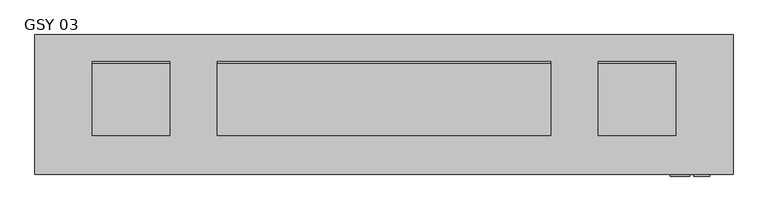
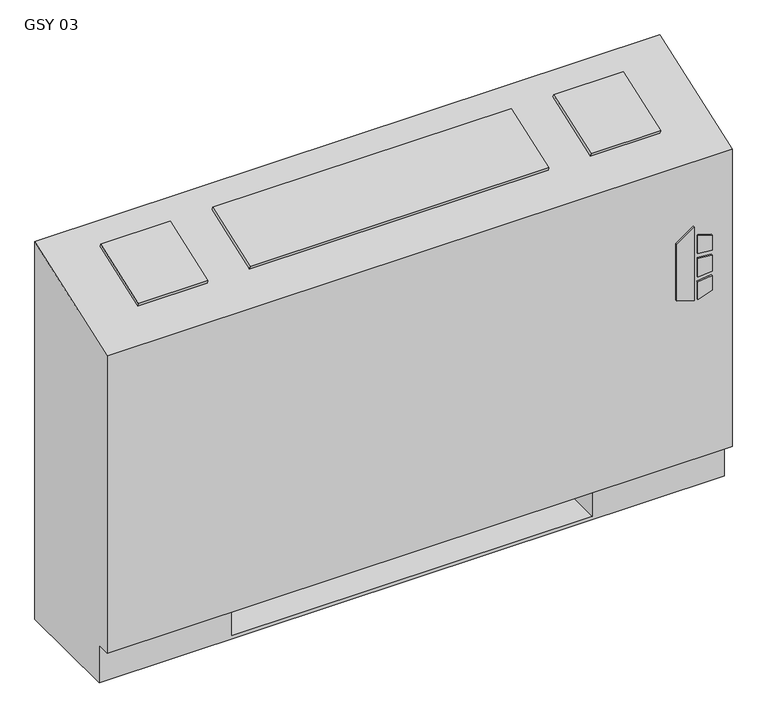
"""IFC4 building model written with IfcOpenShell, lengths in millimetres: proxy geometry, Vertical_Fan_Coil_Unit_-_GSY_-_IEC_-_2-Pipe_TS-FR_LH_2022 : GSY 03."""

from ifc_helpers import new_model, si_unit, point, frame, frame_2d, origin, place, context, project, spatial, polyline, circle_curve, trimmed, segment, composite_curve, outline, extrude, source, transform, mapped, element, save
from ifc_brep_helpers import plane_surface, revolved_surface, advanced_brep


def gsy_03_2a40df72(model_context):
    return source(origin(), model_context, "Body", "SolidModel", [
        extrude(outline(polyline([(391.6086829, 620.7868862), (381.6606126, 652.9602728), (523.831537, 652.9602728), (500.8095309, 620.7868862), (391.6086829, 620.7868862)])), frame((0.0, 12.7, 0.0), z_axis=(0.0, 1.0, 0.0), x_axis=(0.0, 0.0, 1.0)), (0.0, 0.0, 1.0), 3.175),
        extrude(outline(polyline([(470.6079683, 659.7186058), (467.4055757, 685.8), (496.6344168, 685.8), (504.6988318, 659.7186058), (470.6079683, 659.7186058)])), frame((0.0, 12.7, 0.0), z_axis=(0.0, 1.0, 0.0), x_axis=(0.0, 0.0, 1.0)), (0.0, 0.0, 1.0), 3.175),
        extrude(outline(polyline([(418.7444414, 685.8), (415.0789404, 659.7186058), (381.6606126, 659.7186058), (390.2948498, 685.8), (418.7444414, 685.8)])), frame((0.0, 12.7, 0.0), z_axis=(0.0, 1.0, 0.0), x_axis=(0.0, 0.0, 1.0)), (0.0, 0.0, 1.0), 3.175),
        extrude(outline(polyline([(458.0596028, 685.8), (460.3414292, 659.7186058), (424.4038806, 659.7186058), (427.1451456, 685.8), (458.0596028, 685.8)])), frame((0.0, 12.7, 0.0), z_axis=(0.0, 1.0, 0.0), x_axis=(0.0, 0.0, 1.0)), (0.0, 0.0, 1.0), 3.175),
        extrude(outline(polyline([(0.0, -126.2347031), (0.0, 0.0), (127.0, 0.0), (127.0, -126.2347031), (0.0, -126.2347031)])), frame((-324.993, 200.4217127, 714.3418685), z_axis=(0.0, -0.33964446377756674, 0.9405538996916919), x_axis=(1.0, 0.0, 0.0)), (0.0, 0.0, 1.0), 6.35),
        extrude(outline(polyline([(0.0, -126.2347031), (0.0, 0.0), (546.1, 0.0), (546.1, -126.2347031), (0.0, -126.2347031)])), frame((425.45, 81.6911704, 671.4669504), z_axis=(0.0, -0.3396444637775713, 0.9405538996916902), x_axis=(-1.0, 0.0, 0.0)), (0.0, 0.0, 1.0), 6.35),
        extrude(outline(polyline([(0.0, -126.2347031), (0.0, 0.0), (127.0, 0.0), (127.0, -126.2347031), (0.0, -126.2347031)])), frame((629.793, 81.6911704, 671.4669504), z_axis=(0.0, -0.3396444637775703, 0.9405538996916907), x_axis=(-1.0, 0.0, 0.0)), (0.0, 0.0, 1.0), 6.35),
        extrude(outline(polyline([(482.6, 81.534), (482.6, 223.266), (603.25, 223.266), (603.25, 81.534), (482.6, 81.534)])), frame((0.0, 0.0, 327.025), z_axis=(0.0, 0.0, 1.0), x_axis=(1.0, 0.0, 0.0)), (0.0, 0.0, 1.0), 260.35),
        extrude(outline(composite_curve([segment(trimmed(circle_curve(frame_2d((80.645, 397.002)), 7.9375), [point((80.645, 404.9395))], [point((80.645, 389.0645))], False, "CARTESIAN"), True, "CONTINUOUS"), segment(trimmed(circle_curve(frame_2d((80.645, 397.002)), 7.9375), [point((80.645, 389.0645))], [point((80.645, 404.9395))], False, "CARTESIAN"), True, "CONTINUOUS")], self_intersect=False)), frame((-228.6, 0.0, 0.0), z_axis=(1.0, 0.0, 0.0), x_axis=(0.0, 1.0, 0.0)), (0.0, 0.0, 1.0), 50.8),
        extrude(outline(composite_curve([segment(trimmed(circle_curve(frame_2d((156.8958, 535.8892)), 7.9375), [point((156.8958, 543.8267))], [point((156.8958, 527.9517))], False, "CARTESIAN"), True, "CONTINUOUS"), segment(trimmed(circle_curve(frame_2d((156.8958, 535.8892)), 7.9375), [point((156.8958, 527.9517))], [point((156.8958, 543.8267))], False, "CARTESIAN"), True, "CONTINUOUS")], self_intersect=False)), frame((-228.6, 0.0, 0.0), z_axis=(1.0, 0.0, 0.0), x_axis=(0.0, 1.0, 0.0)), (0.0, 0.0, 1.0), 50.8),
        advanced_brep(
        [(-419.1, 244.475, 0.0), (723.9, 244.475, 0.0), (723.9, 41.275, 0.0), (-419.1, 41.275, 0.0), (-419.1, 244.475, 730.25), (723.9, 244.475, 730.25), (482.6, 244.475, 73.025), (711.2, 244.475, 73.025), (711.2, 244.475, 654.05), (482.6, 244.475, 654.05), (482.6, 244.475, 414.8650565), (511.175, 244.475, 414.8650565), (511.175, 244.475, 385.2349435), (482.6, 244.475, 385.2349435), (482.6, 244.475, 287.3375), (511.175, 244.475, 287.3375), (511.175, 244.475, 258.7625), (482.6, 244.475, 258.7625), (482.6, 244.475, 141.2875), (511.175, 244.475, 141.2875), (511.175, 244.475, 112.7125), (482.6, 244.475, 112.7125), (-177.8, 244.475, 654.05), (-406.4, 244.475, 654.05), (-406.4, 244.475, 73.025), (-177.8, 244.475, 73.025), (-177.8, 244.475, 112.7125), (-206.375, 244.475, 112.7125), (-206.375, 244.475, 141.2875), (-177.8, 244.475, 141.2875), (-177.8, 244.475, 258.7625), (-206.375, 244.475, 258.7625), (-206.375, 244.475, 287.3375), (-177.8, 244.475, 287.3375), (-177.8, 244.475, 385.2349435), (-206.375, 244.475, 385.2349435), (-206.375, 244.475, 414.8650565), (-177.8, 244.475, 414.8650565), (500.8626, 244.475, 127.0), (489.7374, 244.475, 127.0), (500.8626, 244.475, 400.05), (489.7374, 244.475, 400.05), (500.8626, 244.475, 273.05), (489.7374, 244.475, 273.05), (-184.9374, 244.475, 127.0), (-196.0626, 244.475, 127.0), (-184.9374, 244.475, 273.05), (-196.0626, 244.475, 273.05), (-184.9374, 244.475, 400.05), (-196.0626, 244.475, 400.05), (-419.1, 41.275, 73.025), (-419.1, 15.875, 73.025), (-419.1, 15.875, 647.7), (723.9, 15.875, 73.025), (723.9, 15.875, 647.7), (723.9, 41.275, 73.025), (-177.8, 41.275, 73.025), (-177.8, 225.425, 73.025), (482.6, 225.425, 73.025), (482.6, 41.275, 73.025), (482.6, 41.275, 6.35), (-177.8, 41.275, 6.35), (482.6, 41.275, 654.05), (711.2, 41.275, 654.05), (711.2, 41.275, 73.025), (482.6, 41.275, 73.025), (-177.8, 41.275, 654.05), (-177.8, 41.275, 73.025), (-406.4, 41.275, 73.025), (-406.4, 41.275, 654.05), (482.6, 225.425, 73.025), (482.6, 238.125, 112.7125), (482.6, 238.125, 141.2875), (482.6, 238.125, 258.7625), (482.6, 238.125, 287.3375), (482.6, 238.125, 385.2349435), (482.6, 238.125, 414.8650565), (-177.8, 225.425, 73.025), (-177.8, 238.125, 414.8650565), (-177.8, 238.125, 385.2349435), (-177.8, 238.125, 287.3375), (-177.8, 238.125, 258.7625), (-177.8, 238.125, 141.2875), (-177.8, 238.125, 112.7125), (-177.8, 225.425, 6.35), (482.6, 225.425, 6.35), (511.175, 238.125, 112.7125), (511.175, 238.125, 141.2875), (489.7374, 238.125, 127.0), (500.8626, 238.125, 127.0), (511.175, 238.125, 258.7625), (511.175, 238.125, 287.3375), (489.7374, 238.125, 273.05), (500.8626, 238.125, 273.05), (511.175, 238.125, 385.2349435), (511.175, 238.125, 414.8650565), (489.7374, 238.125, 400.05), (500.8626, 238.125, 400.05), (-206.375, 238.125, 141.2875), (-206.375, 238.125, 112.7125), (-196.0626, 238.125, 127.0), (-184.9374, 238.125, 127.0), (-206.375, 238.125, 287.3375), (-206.375, 238.125, 258.7625), (-196.0626, 238.125, 273.05), (-184.9374, 238.125, 273.05), (-206.375, 238.125, 414.8650565), (-206.375, 238.125, 385.2349435), (-196.0626, 238.125, 400.05), (-184.9374, 238.125, 400.05)],
        [
            (0, 1),
            (1, 2),
            (2, 3),
            (3, 0),
            (0, 4),
            (4, 5),
            (5, 1),
            (6, 7),
            (7, 8),
            (8, 9),
            (9, 10),
            (10, 11),
            (11, 12),
            (12, 13),
            (13, 14),
            (14, 15),
            (15, 16),
            (16, 17),
            (17, 18),
            (18, 19),
            (19, 20),
            (20, 21),
            (21, 6),
            (22, 23),
            (23, 24),
            (24, 25),
            (25, 26),
            (26, 27),
            (27, 28),
            (28, 29),
            (29, 30),
            (30, 31),
            (31, 32),
            (32, 33),
            (33, 34),
            (34, 35),
            (35, 36),
            (36, 37),
            (37, 22),
            (38, 39, circle_curve(frame((495.3, 244.475, 127.0), z_axis=(0.0, -1.0, 0.0), x_axis=(-1.0, 0.0, 0.0)), 5.5626)),
            (39, 38, circle_curve(frame((495.3, 244.475, 127.0), z_axis=(0.0, -1.0, 0.0), x_axis=(-1.0, 0.0, 0.0)), 5.5626)),
            (40, 41, circle_curve(frame((495.3, 244.475, 400.05), z_axis=(0.0, -1.0, 0.0), x_axis=(-1.0, 0.0, 0.0)), 5.5626)),
            (41, 40, circle_curve(frame((495.3, 244.475, 400.05), z_axis=(0.0, -1.0, 0.0), x_axis=(-1.0, 0.0, 0.0)), 5.5626)),
            (42, 43, circle_curve(frame((495.3, 244.475, 273.05), z_axis=(0.0, -1.0, 0.0), x_axis=(-1.0, 0.0, 0.0)), 5.5626)),
            (43, 42, circle_curve(frame((495.3, 244.475, 273.05), z_axis=(0.0, -1.0, 0.0), x_axis=(-1.0, 0.0, 0.0)), 5.5626)),
            (44, 45, circle_curve(frame((-190.5, 244.475, 127.0), z_axis=(0.0, -1.0, 0.0), x_axis=(-1.0, 0.0, 0.0)), 5.5626)),
            (45, 44, circle_curve(frame((-190.5, 244.475, 127.0), z_axis=(0.0, -1.0, 0.0), x_axis=(-1.0, 0.0, 0.0)), 5.5626)),
            (46, 47, circle_curve(frame((-190.5, 244.475, 273.05), z_axis=(0.0, -1.0, 0.0), x_axis=(-1.0, 0.0, 0.0)), 5.5626)),
            (47, 46, circle_curve(frame((-190.5, 244.475, 273.05), z_axis=(0.0, -1.0, 0.0), x_axis=(-1.0, 0.0, 0.0)), 5.5626)),
            (48, 49, circle_curve(frame((-190.5, 244.475, 400.05), z_axis=(0.0, -1.0, 0.0), x_axis=(-1.0, 0.0, 0.0)), 5.5626)),
            (49, 48, circle_curve(frame((-190.5, 244.475, 400.05), z_axis=(0.0, -1.0, 0.0), x_axis=(-1.0, 0.0, 0.0)), 5.5626)),
            (3, 50),
            (50, 51),
            (51, 52),
            (52, 4),
            (51, 53),
            (53, 54),
            (54, 52),
            (5, 54),
            (53, 55),
            (55, 2),
            (50, 56),
            (56, 57),
            (57, 58),
            (58, 59),
            (59, 55),
            (59, 60),
            (60, 61),
            (61, 56),
            (62, 63),
            (63, 64),
            (64, 65),
            (65, 62),
            (66, 67),
            (67, 68),
            (68, 69),
            (69, 66),
            (65, 70),
            (70, 6),
            (21, 71),
            (71, 72),
            (72, 18),
            (17, 73),
            (73, 74),
            (74, 14),
            (13, 75),
            (75, 76),
            (76, 10),
            (9, 62),
            (64, 7),
            (63, 8),
            (69, 23),
            (22, 66),
            (68, 24),
            (67, 77),
            (77, 25),
            (37, 78),
            (78, 79),
            (79, 34),
            (33, 80),
            (80, 81),
            (81, 30),
            (29, 82),
            (82, 83),
            (83, 26),
            (57, 84),
            (84, 85),
            (85, 58),
            (85, 60),
            (84, 61),
            (71, 86),
            (86, 87),
            (87, 72),
            (88, 89, circle_curve(frame((495.3, 238.125, 127.0), z_axis=(0.0, 1.0, 0.0), x_axis=(-1.0, 0.0, 0.0)), 5.5626)),
            (89, 88, circle_curve(frame((495.3, 238.125, 127.0), z_axis=(0.0, 1.0, 0.0), x_axis=(-1.0, 0.0, 0.0)), 5.5626)),
            (73, 90),
            (90, 91),
            (91, 74),
            (92, 93, circle_curve(frame((495.3, 238.125, 273.05), z_axis=(0.0, 1.0, 0.0), x_axis=(-1.0, 0.0, 0.0)), 5.5626)),
            (93, 92, circle_curve(frame((495.3, 238.125, 273.05), z_axis=(0.0, 1.0, 0.0), x_axis=(-1.0, 0.0, 0.0)), 5.5626)),
            (75, 94),
            (94, 95),
            (95, 76),
            (96, 97, circle_curve(frame((495.3, 238.125, 400.05), z_axis=(0.0, 1.0, 0.0), x_axis=(-1.0, 0.0, 0.0)), 5.5626)),
            (97, 96, circle_curve(frame((495.3, 238.125, 400.05), z_axis=(0.0, 1.0, 0.0), x_axis=(-1.0, 0.0, 0.0)), 5.5626)),
            (98, 99),
            (99, 83),
            (82, 98),
            (100, 101, circle_curve(frame((-190.5, 238.125, 127.0), z_axis=(0.0, 1.0, 0.0), x_axis=(-1.0, 0.0, 0.0)), 5.5626)),
            (101, 100, circle_curve(frame((-190.5, 238.125, 127.0), z_axis=(0.0, 1.0, 0.0), x_axis=(-1.0, 0.0, 0.0)), 5.5626)),
            (102, 103),
            (103, 81),
            (80, 102),
            (104, 105, circle_curve(frame((-190.5, 238.125, 273.05), z_axis=(0.0, 1.0, 0.0), x_axis=(-1.0, 0.0, 0.0)), 5.5626)),
            (105, 104, circle_curve(frame((-190.5, 238.125, 273.05), z_axis=(0.0, 1.0, 0.0), x_axis=(-1.0, 0.0, 0.0)), 5.5626)),
            (106, 107),
            (107, 79),
            (78, 106),
            (108, 109, circle_curve(frame((-190.5, 238.125, 400.05), z_axis=(0.0, 1.0, 0.0), x_axis=(-1.0, 0.0, 0.0)), 5.5626)),
            (109, 108, circle_curve(frame((-190.5, 238.125, 400.05), z_axis=(0.0, 1.0, 0.0), x_axis=(-1.0, 0.0, 0.0)), 5.5626)),
            (87, 19),
            (86, 20),
            (91, 15),
            (90, 16),
            (95, 11),
            (94, 12),
            (28, 98),
            (99, 27),
            (32, 102),
            (103, 31),
            (36, 106),
            (107, 35),
            (88, 39),
            (38, 89),
            (96, 41),
            (40, 97),
            (92, 43),
            (42, 93),
            (100, 45),
            (44, 101),
            (104, 47),
            (46, 105),
            (108, 49),
            (48, 109),
        ],
        [
            plane_surface(frame((-419.1, 244.475, 0.0), z_axis=(0.0, 0.0, -1.0), x_axis=(1.0, 0.0, 0.0))),
            plane_surface(frame((723.9, 244.475, 730.25), z_axis=(0.0, 1.0, 0.0), x_axis=(0.0, 0.0, -1.0))),
            plane_surface(frame((-419.1, 244.475, 730.25), z_axis=(-1.0, 0.0, 0.0), x_axis=(0.0, 0.0, -1.0))),
            plane_surface(frame((-419.1, 15.875, 730.25), z_axis=(0.0, -1.0, 0.0), x_axis=(0.0, 0.0, -1.0))),
            plane_surface(frame((723.9, 15.875, 730.25), z_axis=(1.0, 0.0, 0.0), x_axis=(0.0, 0.0, -1.0))),
            plane_surface(frame((-419.1, 15.875, 73.025), z_axis=(0.0, 0.0, -1.0), x_axis=(1.0, 0.0, 0.0))),
            plane_surface(frame((-419.1, 41.275, 73.025), z_axis=(0.0, -1.0, 0.0), x_axis=(1.0, 0.0, 0.0))),
            plane_surface(frame((482.6, 41.275, 654.05), z_axis=(0.0, 1.0, 0.0), x_axis=(0.0, 0.0, -1.0))),
            plane_surface(frame((482.6, 41.275, 654.05), z_axis=(1.0, 0.0, 0.0), x_axis=(0.0, 1.0, 0.0))),
            plane_surface(frame((482.6, 41.275, 73.025), z_axis=(0.0, 0.0, 1.0), x_axis=(0.0, 1.0, 0.0))),
            plane_surface(frame((711.2, 41.275, 73.025), z_axis=(-1.0, 0.0, 0.0), x_axis=(0.0, 1.0, 0.0))),
            plane_surface(frame((711.2, 41.275, 654.05), z_axis=(0.0, 0.0, -1.0), x_axis=(0.0, 1.0, 0.0))),
            plane_surface(frame((-177.8, 41.275, 654.05), z_axis=(0.0, 0.0, -1.0), x_axis=(0.0, 1.0, 0.0))),
            plane_surface(frame((-406.4, 41.275, 654.05), z_axis=(1.0, 0.0, 0.0), x_axis=(0.0, 1.0, 0.0))),
            plane_surface(frame((-406.4, 41.275, 73.025), z_axis=(0.0, 0.0, 1.0), x_axis=(0.0, 1.0, 0.0))),
            plane_surface(frame((-177.8, 41.275, 73.025), z_axis=(-1.0, 0.0, 0.0), x_axis=(0.0, 1.0, 0.0))),
            plane_surface(frame((482.6, 225.425, 73.025), z_axis=(0.0, -1.0, 0.0), x_axis=(0.0, 0.0, -1.0))),
            plane_surface(frame((482.6, 225.425, 73.025), z_axis=(-1.0, 0.0, 0.0), x_axis=(0.0, -1.0, 0.0))),
            plane_surface(frame((482.6, 225.425, 6.35), z_axis=(0.0, 0.0, 1.0), x_axis=(0.0, -1.0, 0.0))),
            plane_surface(frame((-177.8, 225.425, 6.35), z_axis=(1.0, 0.0, 0.0), x_axis=(0.0, -1.0, 0.0))),
            plane_surface(frame((511.175, 238.125, 141.2875), z_axis=(0.0, -1.0, 0.0), x_axis=(-1.0, 0.0, 0.0))),
            plane_surface(frame((482.6, 244.475, 141.2875), z_axis=(0.0, 0.0, 1.0), x_axis=(0.0, -1.0, 0.0))),
            plane_surface(frame((511.175, 244.475, 141.2875), z_axis=(1.0, 0.0, 0.0), x_axis=(0.0, -1.0, 0.0))),
            plane_surface(frame((511.175, 244.475, 112.7125), z_axis=(0.0, 0.0, -1.0), x_axis=(0.0, -1.0, 0.0))),
            plane_surface(frame((482.6, 244.475, 287.3375), z_axis=(0.0, 0.0, 1.0), x_axis=(0.0, -1.0, 0.0))),
            plane_surface(frame((511.175, 244.475, 287.3375), z_axis=(1.0, 0.0, 0.0), x_axis=(0.0, -1.0, 0.0))),
            plane_surface(frame((511.175, 244.475, 258.7625), z_axis=(0.0, 0.0, -1.0), x_axis=(0.0, -1.0, 0.0))),
            plane_surface(frame((482.6, 244.475, 414.8650565), z_axis=(0.0, 0.0, 1.0), x_axis=(0.0, -1.0, 0.0))),
            plane_surface(frame((511.175, 244.475, 414.8650565), z_axis=(1.0, 0.0, 0.0), x_axis=(0.0, -1.0, 0.0))),
            plane_surface(frame((511.175, 244.475, 385.2349435), z_axis=(0.0, 0.0, -1.0), x_axis=(0.0, -1.0, 0.0))),
            plane_surface(frame((-206.375, 244.475, 141.2875), z_axis=(0.0, 0.0, 1.0), x_axis=(0.0, -1.0, 0.0))),
            plane_surface(frame((-177.8, 244.475, 112.7125), z_axis=(0.0, 0.0, -1.0), x_axis=(0.0, -1.0, 0.0))),
            plane_surface(frame((-206.375, 244.475, 112.7125), z_axis=(-1.0, 0.0, 0.0), x_axis=(0.0, -1.0, 0.0))),
            plane_surface(frame((-206.375, 244.475, 287.3375), z_axis=(0.0, 0.0, 1.0), x_axis=(0.0, -1.0, 0.0))),
            plane_surface(frame((-177.8, 244.475, 258.7625), z_axis=(0.0, 0.0, -1.0), x_axis=(0.0, -1.0, 0.0))),
            plane_surface(frame((-206.375, 244.475, 258.7625), z_axis=(-1.0, 0.0, 0.0), x_axis=(0.0, -1.0, 0.0))),
            plane_surface(frame((-206.375, 244.475, 414.8650565), z_axis=(0.0, 0.0, 1.0), x_axis=(0.0, -1.0, 0.0))),
            plane_surface(frame((-177.8, 244.475, 385.2349435), z_axis=(0.0, 0.0, -1.0), x_axis=(0.0, -1.0, 0.0))),
            plane_surface(frame((-206.375, 244.475, 385.2349435), z_axis=(-1.0, 0.0, 0.0), x_axis=(0.0, -1.0, 0.0))),
            revolved_surface(polyline([(489.73740000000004, 238.125, 127.0), (489.73740000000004, 244.475, 127.0)]), (495.3, 244.475, 127.0), (0.0, -1.0, 0.0)),
            revolved_surface(polyline([(489.73740000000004, 238.125, 400.05), (489.73740000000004, 244.475, 400.05)]), (495.3, 244.475, 400.05), (0.0, -1.0, 0.0)),
            revolved_surface(polyline([(489.73740000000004, 238.125, 273.05), (489.73740000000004, 244.475, 273.05)]), (495.3, 244.475, 273.05), (0.0, -1.0, 0.0)),
            revolved_surface(polyline([(-196.0626, 238.125, 127.0), (-196.0626, 244.475, 127.0)]), (-190.5, 244.475, 127.0), (0.0, -1.0, 0.0)),
            revolved_surface(polyline([(-196.0626, 238.125, 273.05), (-196.0626, 244.475, 273.05)]), (-190.5, 244.475, 273.05), (0.0, -1.0, 0.0)),
            revolved_surface(polyline([(-196.0626, 238.125, 400.05), (-196.0626, 244.475, 400.05)]), (-190.5, 244.475, 400.05), (0.0, -1.0, 0.0)),
            plane_surface(frame((-419.1, 244.475, 730.25), z_axis=(0.0, -0.33964446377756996, 0.9405538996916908), x_axis=(1.0, 0.0, 0.0))),
        ],
        [
            (0, [[1, 2, 3, 4]]),
            (1, [[-1, 5, 6, 7], [8, 9, 10, 11, 12, 13, 14, 15, 16, 17, 18, 19, 20, 21, 22, 23], [24, 25, 26, 27, 28, 29, 30, 31, 32, 33, 34, 35, 36, 37, 38, 39], [40, 41], [42, 43], [44, 45], [46, 47], [48, 49], [50, 51]]),
            (2, [[-5, -4, 52, 53, 54, 55]]),
            (3, [[56, 57, 58, -54]]),
            (4, [[-7, 59, -57, 60, 61, -2]]),
            (5, [[-53, 62, 63, 64, 65, 66, -60, -56]]),
            (6, [[-3, -61, -66, 67, 68, 69, -62, -52]]),
            (7, [[70, 71, 72, 73]]),
            (7, [[74, 75, 76, 77]]),
            (8, [[-73, 78, 79, -23, 80, 81, 82, -19, 83, 84, 85, -15, 86, 87, 88, -11, 89]]),
            (9, [[-72, 90, -8, -79, -78]]),
            (10, [[-71, 91, -9, -90]]),
            (11, [[-70, -89, -10, -91]]),
            (12, [[-77, 92, -24, 93]]),
            (13, [[-76, 94, -25, -92]]),
            (14, [[-75, 95, 96, -26, -94]]),
            (15, [[-74, -93, -39, 97, 98, 99, -35, 100, 101, 102, -31, 103, 104, 105, -27, -96, -95]]),
            (16, [[-64, 106, 107, 108]]),
            (17, [[-108, 109, -67, -65]]),
            (18, [[-107, 110, -68, -109]]),
            (19, [[-106, -63, -69, -110]]),
            (20, [[111, 112, 113, -81], [114, 115]]),
            (20, [[116, 117, 118, -84], [119, 120]]),
            (20, [[121, 122, 123, -87], [124, 125]]),
            (20, [[126, 127, -104, 128], [129, 130]]),
            (20, [[131, 132, -101, 133], [134, 135]]),
            (20, [[136, 137, -98, 138], [139, 140]]),
            (21, [[-113, 141, -20, -82]]),
            (22, [[-112, 142, -21, -141]]),
            (23, [[-111, -80, -22, -142]]),
            (24, [[-118, 143, -16, -85]]),
            (25, [[-117, 144, -17, -143]]),
            (26, [[-116, -83, -18, -144]]),
            (27, [[-123, 145, -12, -88]]),
            (28, [[-122, 146, -13, -145]]),
            (29, [[-121, -86, -14, -146]]),
            (30, [[-128, -103, -30, 147]]),
            (31, [[-127, 148, -28, -105]]),
            (32, [[-126, -147, -29, -148]]),
            (33, [[-133, -100, -34, 149]]),
            (34, [[-132, 150, -32, -102]]),
            (35, [[-131, -149, -33, -150]]),
            (36, [[-138, -97, -38, 151]]),
            (37, [[-137, 152, -36, -99]]),
            (38, [[-136, -151, -37, -152]]),
            (39, [[153, -40, 154, -114]]),
            (39, [[-153, -115, -154, -41]]),
            (40, [[155, -42, 156, -124]]),
            (40, [[-155, -125, -156, -43]]),
            (41, [[157, -44, 158, -119]]),
            (41, [[-157, -120, -158, -45]]),
            (42, [[159, -46, 160, -129]]),
            (42, [[-159, -130, -160, -47]]),
            (43, [[161, -48, 162, -134]]),
            (43, [[-161, -135, -162, -49]]),
            (44, [[163, -50, 164, -139]]),
            (44, [[-163, -140, -164, -51]]),
            (45, [[-6, -55, -58, -59]]),
        ],
    ),
    ])


if __name__ == "__main__":
    model = new_model("IFC4")
    model_context = context("Model", 3, world=origin())
    ifc_project = project(units=[si_unit("LENGTHUNIT", "METRE", prefix="MILLI")], contexts=[model_context])
    site = spatial("IfcSite", under=ifc_project)
    building = spatial("IfcBuilding", under=site)
    placement = place(None, origin())
    gsy_03_shape = gsy_03_2a40df72(model_context)
    element("IfcBuildingElementProxy", 1, Name="Vertical_Fan_Coil_Unit_-_GSY_-_IEC_-_2-Pipe_TS-FR_LH_2022 : GSY 03", ObjectType="Vertical_Fan_Coil_Unit_-_GSY_-_IEC_-_2-Pipe_TS-FR_LH_2022 : GSY 03", at=placement, inside=building, context=model_context, shape_type="MappedRepresentation", body=[
        mapped(gsy_03_shape, transform((0.0, 0.0, 0.0), x_axis=(1.0, 0.0, 0.0), y_axis=(0.0, 1.0, 0.0), z_axis=(0.0, 0.0, 1.0))),
    ])
    save(model, "model.ifc")
